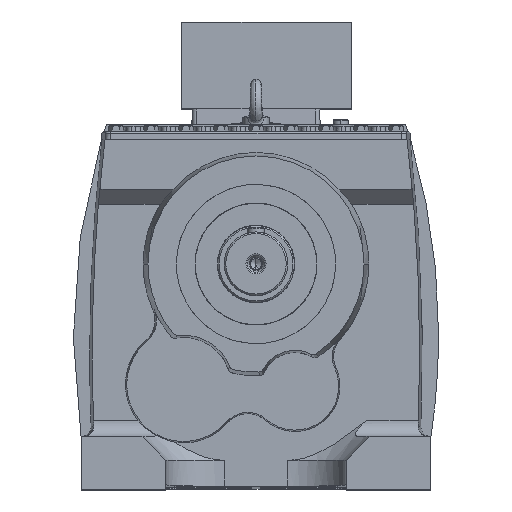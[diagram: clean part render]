
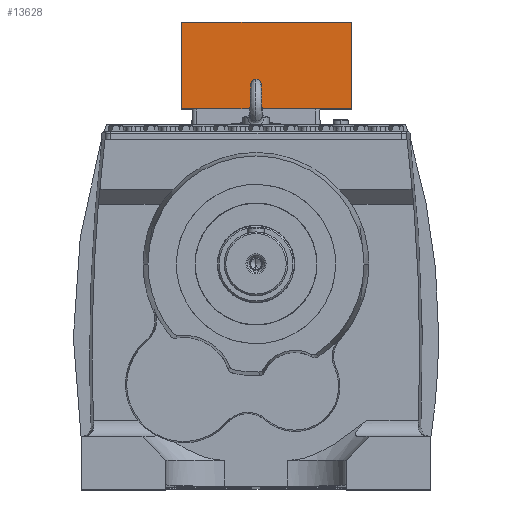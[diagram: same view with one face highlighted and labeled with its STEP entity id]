
A CAD part, top view. The second image highlights one B-rep face of the part: STEP entity #13628.
In plain terms, the highlighted planar face has unit normal (0, 0, 1) as drawn and (1, 0, 0) by its records, which use the part's own axes.
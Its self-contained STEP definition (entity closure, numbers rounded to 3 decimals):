
#4977 = VERTEX_POINT ( 'NONE', #74351 ) ;
#5048 = VERTEX_POINT ( 'NONE', #74478 ) ;
#5069 = VERTEX_POINT ( 'NONE', #74431 ) ;
#5138 = VERTEX_POINT ( 'NONE', #74502 ) ;
#13628 = ADVANCED_FACE ( 'NONE', ( #84764 ), #87691, .F. ) ;
#34815 = ORIENTED_EDGE ( 'NONE', *, *, #39356, .F. ) ;
#34845 = ORIENTED_EDGE ( 'NONE', *, *, #39413, .F. ) ;
#34870 = ORIENTED_EDGE ( 'NONE', *, *, #39363, .F. ) ;
#34970 = ORIENTED_EDGE ( 'NONE', *, *, #39376, .F. ) ;
#39356 = EDGE_CURVE ( 'NONE', #5069, #5138, #54904, .T. ) ;
#39363 = EDGE_CURVE ( 'NONE', #4977, #5069, #54820, .T. ) ;
#39376 = EDGE_CURVE ( 'NONE', #5048, #4977, #54863, .T. ) ;
#39413 = EDGE_CURVE ( 'NONE', #5138, #5048, #55049, .T. ) ;
#54818 = VECTOR ( 'NONE', #61909, 1000. ) ;
#54820 = LINE ( 'NONE', #61852, #54818 ) ;
#54863 = LINE ( 'NONE', #61925, #54935 ) ;
#54904 = LINE ( 'NONE', #61861, #54981 ) ;
#54935 = VECTOR ( 'NONE', #61946, 1000. ) ;
#54981 = VECTOR ( 'NONE', #61840, 1000. ) ;
#55041 = VECTOR ( 'NONE', #60794, 1000. ) ;
#55049 = LINE ( 'NONE', #60793, #55041 ) ;
#55993 = EDGE_LOOP ( 'NONE', ( #34970, #34845, #34815, #34870 ) ) ;
#60793 = CARTESIAN_POINT ( 'NONE',  ( 753., 519., 0. ) ) ;
#60794 = DIRECTION ( 'NONE',  ( 0., 0., -1. ) ) ;
#61840 = DIRECTION ( 'NONE',  ( 0., 1., 0. ) ) ;
#61852 = CARTESIAN_POINT ( 'NONE',  ( 753., 355., -180. ) ) ;
#61861 = CARTESIAN_POINT ( 'NONE',  ( 753., 519., 140. ) ) ;
#61909 = DIRECTION ( 'NONE',  ( 0., 0., 1. ) ) ;
#61925 = CARTESIAN_POINT ( 'NONE',  ( 753., 519., -180. ) ) ;
#61946 = DIRECTION ( 'NONE',  ( 0., -1., 0. ) ) ;
#69477 = AXIS2_PLACEMENT_3D ( 'NONE', #87707, #87719, #87653 ) ;
#74351 = CARTESIAN_POINT ( 'NONE',  ( 753., 355., -180. ) ) ;
#74431 = CARTESIAN_POINT ( 'NONE',  ( 753., 355., 140. ) ) ;
#74478 = CARTESIAN_POINT ( 'NONE',  ( 753., 519., -180. ) ) ;
#74502 = CARTESIAN_POINT ( 'NONE',  ( 753., 519., 140. ) ) ;
#84764 = FACE_OUTER_BOUND ( 'NONE', #55993, .T. ) ;
#87653 = DIRECTION ( 'NONE',  ( 0., 0., 1. ) ) ;
#87691 = PLANE ( 'NONE',  #69477 ) ;
#87707 = CARTESIAN_POINT ( 'NONE',  ( 753., 519., 0. ) ) ;
#87719 = DIRECTION ( 'NONE',  ( -1., 0., 0. ) ) ;
